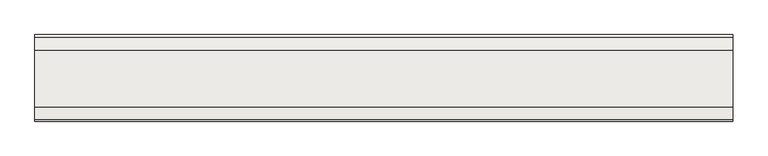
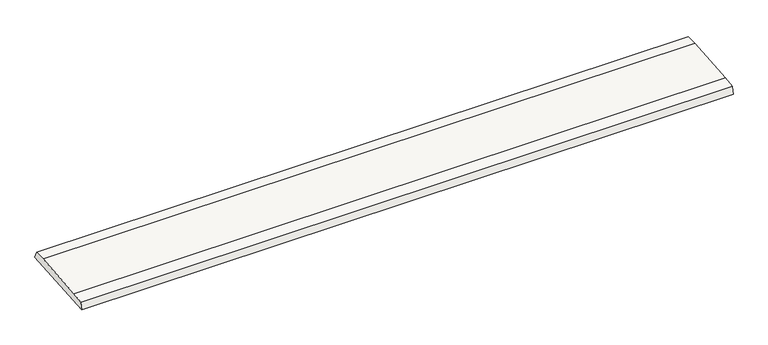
"""IFC4 building model written with IfcOpenShell, lengths in millimetres: slab geometry, ROSA GRES_I25_Inclinación : Pieza I25_Tao_Beige_Anti-Slip."""

from ifc_helpers import new_model, si_unit, point, frame, frame_2d, origin, place, context, project, spatial, polyline, circle_curve, trimmed, segment, composite_curve, outline, extrude, source, transform, mapped, element, save


def slab_975a66a1(model_context):
    return source(origin(), model_context, "Body", "SweptSolid", [
        extrude(outline(composite_curve([segment(polyline([(239.502845, 41.5733833), (248.1421086, 20.183002), (0.0, 0.0), (5.0466881, 22.4539349)]), True, "CONTINUOUS"), segment(trimmed(circle_curve(frame_2d((142.3596866, -685.9166532)), 721.556477), [point((5.0466881, 22.4539349))], [point((40.5673305, 28.4236479))], False, "CARTESIAN"), True, "CONTINUOUS"), segment(polyline([(40.5673305, 28.4236479), (203.9346385, 41.7113673)]), True, "CONTINUOUS"), segment(trimmed(circle_curve(frame_2d((218.9203921, -679.689476)), 721.556477), [point((203.9346385, 41.7113673))], [point((239.502845, 41.5733833))], False, "CARTESIAN"), True, "CONTINUOUS")], self_intersect=False)), frame((0.0, 0.0, 0.0), z_axis=(1.0, 0.0, 0.0), x_axis=(0.0, 1.0, 0.0)), (0.0, 0.0, 1.0), 2000.0),
    ])


if __name__ == "__main__":
    model = new_model("IFC4")
    model_context = context("Model", 3, world=origin())
    ifc_project = project(units=[si_unit("LENGTHUNIT", "METRE", prefix="MILLI")], contexts=[model_context])
    site = spatial("IfcSite", under=ifc_project)
    building = spatial("IfcBuilding", under=site)
    placement = place(None, origin())
    slab_shape = slab_975a66a1(model_context)
    element("IfcSlab", 1, ObjectType="ROSA GRES_I25_Inclinación : Pieza I25_Tao_Beige_Anti-Slip", at=placement, inside=building, context=model_context, shape_type="MappedRepresentation", body=[
        mapped(slab_shape, transform((0.0, 0.0, 0.0), x_axis=(1.0, 0.0, 0.0), y_axis=(0.0, 1.0, 0.0), z_axis=(0.0, 0.0, 1.0))),
    ])
    save(model, "model.ifc")
